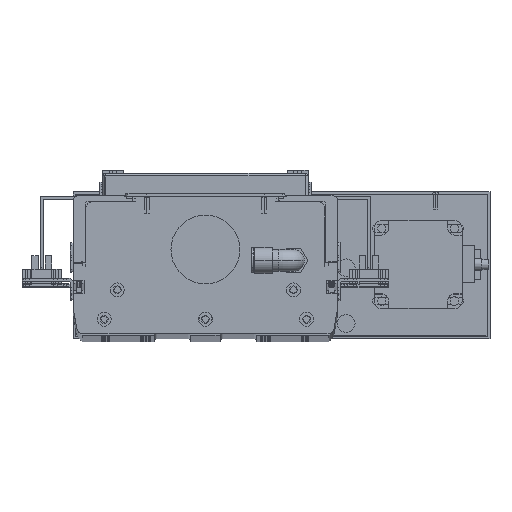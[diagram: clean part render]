
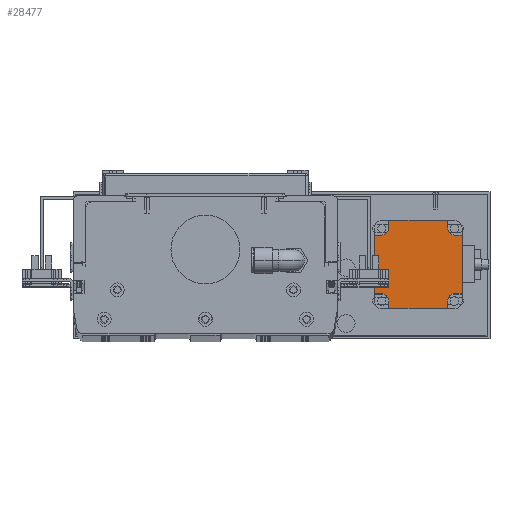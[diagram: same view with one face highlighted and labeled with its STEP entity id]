
A CAD part, top view. The second image highlights one B-rep face of the part: STEP entity #28477.
In plain terms, the highlighted planar face has unit normal (0, 0, 1).
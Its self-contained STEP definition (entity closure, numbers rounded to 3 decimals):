
#25898 = EDGE_CURVE ( 'NONE', #25899, #28487, #55466, .T. ) ;
#25899 = VERTEX_POINT ( 'NONE', #55461 ) ;
#25966 = EDGE_CURVE ( 'NONE', #25999, #25899, #55380, .T. ) ;
#25967 = ORIENTED_EDGE ( 'NONE', *, *, #25898, .T. ) ;
#25987 = EDGE_CURVE ( 'NONE', #26003, #27657, #55344, .T. ) ;
#25988 = ORIENTED_EDGE ( 'NONE', *, *, #25989, .F. ) ;
#25989 = EDGE_CURVE ( 'NONE', #25990, #26003, #55340, .T. ) ;
#25990 = VERTEX_POINT ( 'NONE', #55336 ) ;
#25991 = ORIENTED_EDGE ( 'NONE', *, *, #25992, .F. ) ;
#25992 = EDGE_CURVE ( 'NONE', #25993, #25990, #55335, .T. ) ;
#25993 = VERTEX_POINT ( 'NONE', #55330 ) ;
#25994 = ORIENTED_EDGE ( 'NONE', *, *, #25995, .F. ) ;
#25995 = EDGE_CURVE ( 'NONE', #25996, #25993, #55329, .T. ) ;
#25996 = VERTEX_POINT ( 'NONE', #55325 ) ;
#25997 = ORIENTED_EDGE ( 'NONE', *, *, #25998, .T. ) ;
#25998 = EDGE_CURVE ( 'NONE', #25996, #25999, #55324, .T. ) ;
#25999 = VERTEX_POINT ( 'NONE', #55320 ) ;
#26000 = ORIENTED_EDGE ( 'NONE', *, *, #25966, .T. ) ;
#26002 = ORIENTED_EDGE ( 'NONE', *, *, #25987, .F. ) ;
#26003 = VERTEX_POINT ( 'NONE', #55319 ) ;
#26025 = VERTEX_POINT ( 'NONE', #55582 ) ;
#26027 = EDGE_CURVE ( 'NONE', #26028, #26025, #55581, .T. ) ;
#26028 = VERTEX_POINT ( 'NONE', #55577 ) ;
#27630 = EDGE_CURVE ( 'NONE', #27632, #28505, #58270, .T. ) ;
#27632 = VERTEX_POINT ( 'NONE', #58265 ) ;
#27634 = ORIENTED_EDGE ( 'NONE', *, *, #27637, .F. ) ;
#27637 = EDGE_CURVE ( 'NONE', #26028, #27632, #58263, .T. ) ;
#27638 = ORIENTED_EDGE ( 'NONE', *, *, #26027, .T. ) ;
#27647 = ORIENTED_EDGE ( 'NONE', *, *, #27649, .T. ) ;
#27649 = EDGE_CURVE ( 'NONE', #26025, #27650, #58252, .T. ) ;
#27650 = VERTEX_POINT ( 'NONE', #58246 ) ;
#27651 = ORIENTED_EDGE ( 'NONE', *, *, #27652, .T. ) ;
#27652 = EDGE_CURVE ( 'NONE', #27650, #27653, #58244, .T. ) ;
#27653 = VERTEX_POINT ( 'NONE', #58239 ) ;
#27654 = ORIENTED_EDGE ( 'NONE', *, *, #27655, .T. ) ;
#27655 = EDGE_CURVE ( 'NONE', #27653, #27657, #58238, .T. ) ;
#27657 = VERTEX_POINT ( 'NONE', #58234 ) ;
#28477 = ADVANCED_FACE ( 'NONE', ( #60183 ), #60173, .F. ) ;
#28478 = EDGE_LOOP ( 'NONE', ( #28485, #28489, #28503, #28506, #27634, #27638, #27647, #27651, #27654, #26002, #25988, #25991, #25994, #25997, #26000, #25967 ) ) ;
#28485 = ORIENTED_EDGE ( 'NONE', *, *, #28486, .T. ) ;
#28486 = EDGE_CURVE ( 'NONE', #28487, #28488, #60146, .T. ) ;
#28487 = VERTEX_POINT ( 'NONE', #60140 ) ;
#28488 = VERTEX_POINT ( 'NONE', #60138 ) ;
#28489 = ORIENTED_EDGE ( 'NONE', *, *, #28490, .F. ) ;
#28490 = EDGE_CURVE ( 'NONE', #28491, #28488, #60132, .T. ) ;
#28491 = VERTEX_POINT ( 'NONE', #60128 ) ;
#28503 = ORIENTED_EDGE ( 'NONE', *, *, #28504, .F. ) ;
#28504 = EDGE_CURVE ( 'NONE', #28505, #28491, #60090, .T. ) ;
#28505 = VERTEX_POINT ( 'NONE', #60083 ) ;
#28506 = ORIENTED_EDGE ( 'NONE', *, *, #27630, .F. ) ;
#55319 = CARTESIAN_POINT ( 'NONE',  ( 121.729, 52.18, -340.5 ) ) ;
#55320 = CARTESIAN_POINT ( 'NONE',  ( 111.729, 2.18, -340.5 ) ) ;
#55321 = DIRECTION ( 'NONE',  ( 0., -1., 0. ) ) ;
#55322 = VECTOR ( 'NONE', #55321, 1000. ) ;
#55323 = CARTESIAN_POINT ( 'NONE',  ( 111.729, 52.18, -340.5 ) ) ;
#55324 = LINE ( 'NONE', #55323, #55322 ) ;
#55325 = CARTESIAN_POINT ( 'NONE',  ( 111.729, 42.18, -340.5 ) ) ;
#55326 = DIRECTION ( 'NONE',  ( 1., 0., 0. ) ) ;
#55327 = VECTOR ( 'NONE', #55326, 1000. ) ;
#55328 = CARTESIAN_POINT ( 'NONE',  ( 111.729, 42.18, -340.5 ) ) ;
#55329 = LINE ( 'NONE', #55328, #55327 ) ;
#55330 = CARTESIAN_POINT ( 'NONE',  ( 116.729, 42.18, -340.5 ) ) ;
#55331 = DIRECTION ( 'NONE',  ( 0., 1., 0. ) ) ;
#55332 = DIRECTION ( 'NONE',  ( 0., 0., 1. ) ) ;
#55333 = CARTESIAN_POINT ( 'NONE',  ( 116.729, 47.18, -340.5 ) ) ;
#55334 = AXIS2_PLACEMENT_3D ( 'NONE', #55333, #55332, #55331 ) ;
#55335 = CIRCLE ( 'NONE', #55334, 5. ) ;
#55336 = CARTESIAN_POINT ( 'NONE',  ( 121.729, 47.18, -340.5 ) ) ;
#55337 = DIRECTION ( 'NONE',  ( 0., 1., 0. ) ) ;
#55338 = VECTOR ( 'NONE', #55337, 1000. ) ;
#55339 = CARTESIAN_POINT ( 'NONE',  ( 121.729, 47.18, -340.5 ) ) ;
#55340 = LINE ( 'NONE', #55339, #55338 ) ;
#55341 = DIRECTION ( 'NONE',  ( 1., 0., 0. ) ) ;
#55342 = VECTOR ( 'NONE', #55341, 1000. ) ;
#55343 = CARTESIAN_POINT ( 'NONE',  ( 111.729, 52.18, -340.5 ) ) ;
#55344 = LINE ( 'NONE', #55343, #55342 ) ;
#55377 = DIRECTION ( 'NONE',  ( 1., 0., 0. ) ) ;
#55378 = VECTOR ( 'NONE', #55377, 1000. ) ;
#55379 = CARTESIAN_POINT ( 'NONE',  ( 111.729, 2.18, -340.5 ) ) ;
#55380 = LINE ( 'NONE', #55379, #55378 ) ;
#55461 = CARTESIAN_POINT ( 'NONE',  ( 116.729, 2.18, -340.5 ) ) ;
#55462 = DIRECTION ( 'NONE',  ( 0., -1., 0. ) ) ;
#55463 = DIRECTION ( 'NONE',  ( 0., 0., -1. ) ) ;
#55464 = CARTESIAN_POINT ( 'NONE',  ( 116.729, -2.82, -340.5 ) ) ;
#55465 = AXIS2_PLACEMENT_3D ( 'NONE', #55464, #55463, #55462 ) ;
#55466 = CIRCLE ( 'NONE', #55465, 5. ) ;
#55577 = CARTESIAN_POINT ( 'NONE',  ( 171.729, 2.18, -340.5 ) ) ;
#55578 = DIRECTION ( 'NONE',  ( 0., 1., 0. ) ) ;
#55579 = VECTOR ( 'NONE', #55578, 1000. ) ;
#55580 = CARTESIAN_POINT ( 'NONE',  ( 171.729, -7.82, -340.5 ) ) ;
#55581 = LINE ( 'NONE', #55580, #55579 ) ;
#55582 = CARTESIAN_POINT ( 'NONE',  ( 171.729, 42.18, -340.5 ) ) ;
#58234 = CARTESIAN_POINT ( 'NONE',  ( 161.729, 52.18, -340.5 ) ) ;
#58235 = DIRECTION ( 'NONE',  ( 0., 1., 0. ) ) ;
#58236 = VECTOR ( 'NONE', #58235, 1000. ) ;
#58237 = CARTESIAN_POINT ( 'NONE',  ( 161.729, 47.18, -340.5 ) ) ;
#58238 = LINE ( 'NONE', #58237, #58236 ) ;
#58239 = CARTESIAN_POINT ( 'NONE',  ( 161.729, 47.18, -340.5 ) ) ;
#58240 = DIRECTION ( 'NONE',  ( 0., -1., 0. ) ) ;
#58241 = DIRECTION ( 'NONE',  ( 0., 0., -1. ) ) ;
#58242 = CARTESIAN_POINT ( 'NONE',  ( 166.729, 47.18, -340.5 ) ) ;
#58243 = AXIS2_PLACEMENT_3D ( 'NONE', #58242, #58241, #58240 ) ;
#58244 = CIRCLE ( 'NONE', #58243, 5. ) ;
#58246 = CARTESIAN_POINT ( 'NONE',  ( 166.729, 42.18, -340.5 ) ) ;
#58248 = DIRECTION ( 'NONE',  ( -1., 0., 0. ) ) ;
#58250 = VECTOR ( 'NONE', #58248, 1000. ) ;
#58251 = CARTESIAN_POINT ( 'NONE',  ( 171.729, 42.18, -340.5 ) ) ;
#58252 = LINE ( 'NONE', #58251, #58250 ) ;
#58258 = DIRECTION ( 'NONE',  ( -1., 0., 0. ) ) ;
#58259 = VECTOR ( 'NONE', #58258, 1000. ) ;
#58261 = CARTESIAN_POINT ( 'NONE',  ( 171.729, 2.18, -340.5 ) ) ;
#58263 = LINE ( 'NONE', #58261, #58259 ) ;
#58265 = CARTESIAN_POINT ( 'NONE',  ( 166.729, 2.18, -340.5 ) ) ;
#58266 = DIRECTION ( 'NONE',  ( 0., 1., 0. ) ) ;
#58267 = DIRECTION ( 'NONE',  ( 0., 0., 1. ) ) ;
#58268 = CARTESIAN_POINT ( 'NONE',  ( 166.729, -2.82, -340.5 ) ) ;
#58269 = AXIS2_PLACEMENT_3D ( 'NONE', #58268, #58267, #58266 ) ;
#58270 = CIRCLE ( 'NONE', #58269, 5. ) ;
#60083 = CARTESIAN_POINT ( 'NONE',  ( 161.729, -2.82, -340.5 ) ) ;
#60085 = DIRECTION ( 'NONE',  ( 0., -1., 0. ) ) ;
#60087 = VECTOR ( 'NONE', #60085, 1000. ) ;
#60089 = CARTESIAN_POINT ( 'NONE',  ( 161.729, -2.82, -340.5 ) ) ;
#60090 = LINE ( 'NONE', #60089, #60087 ) ;
#60128 = CARTESIAN_POINT ( 'NONE',  ( 161.729, -7.82, -340.5 ) ) ;
#60129 = DIRECTION ( 'NONE',  ( -1., 0., 0. ) ) ;
#60130 = VECTOR ( 'NONE', #60129, 1000. ) ;
#60131 = CARTESIAN_POINT ( 'NONE',  ( 171.729, -7.82, -340.5 ) ) ;
#60132 = LINE ( 'NONE', #60131, #60130 ) ;
#60138 = CARTESIAN_POINT ( 'NONE',  ( 121.729, -7.82, -340.5 ) ) ;
#60140 = CARTESIAN_POINT ( 'NONE',  ( 121.729, -2.82, -340.5 ) ) ;
#60143 = DIRECTION ( 'NONE',  ( 0., -1., 0. ) ) ;
#60144 = VECTOR ( 'NONE', #60143, 1000. ) ;
#60145 = CARTESIAN_POINT ( 'NONE',  ( 121.729, -2.82, -340.5 ) ) ;
#60146 = LINE ( 'NONE', #60145, #60144 ) ;
#60166 = DIRECTION ( 'NONE',  ( 0., -1., 0. ) ) ;
#60167 = DIRECTION ( 'NONE',  ( 0., 0., -1. ) ) ;
#60168 = CARTESIAN_POINT ( 'NONE',  ( 111.729, 52.18, -340.5 ) ) ;
#60169 = AXIS2_PLACEMENT_3D ( 'NONE', #60168, #60167, #60166 ) ;
#60173 = PLANE ( 'NONE',  #60169 ) ;
#60183 = FACE_OUTER_BOUND ( 'NONE', #28478, .T. ) ;
